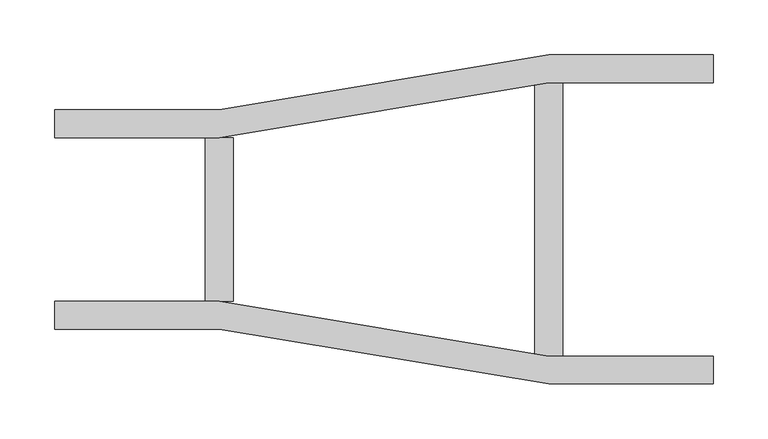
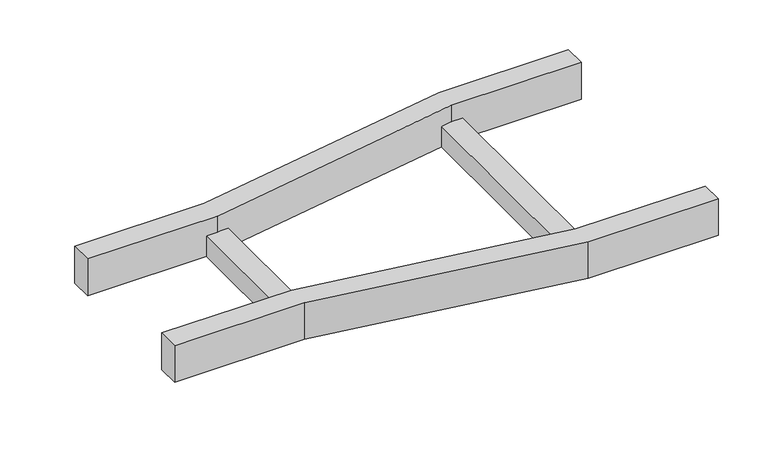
"""IFC4 building model written with IfcOpenShell, lengths in millimetres: cable carrier fitting geometry, BAKS_LD_RED_Straight reducer_RD : RD(S/L/P)C_H45."""

from ifc_helpers import new_model, si_unit, frame, origin, place, context, project, spatial, polyline, outline, extrude, source, transform, mapped, element, save


def cable_carrier_fitting_05152c93(model_context):
    return source(origin(), model_context, "Body", "SweptSolid", [
        extrude(outline(polyline([(0.0, -100.0), (0.0, -74.6), (150.0, -74.6), (450.0, -124.6), (600.0, -124.6), (600.0, -150.0), (450.0, -150.0), (150.0, -100.0), (0.0, -100.0)])), frame((0.0, 0.0, -22.5), z_axis=(0.0, 0.0, 1.0), x_axis=(1.0, 0.0, 0.0)), (0.0, 0.0, 1.0), 45.0),
        extrude(outline(polyline([(0.0, 74.6), (0.0, 100.0), (150.0, 100.0), (450.0, 150.0), (600.0, 150.0), (600.0, 124.6), (450.0, 124.6), (150.0, 74.6), (0.0, 74.6)])), frame((0.0, 0.0, -22.5), z_axis=(0.0, 0.0, 1.0), x_axis=(1.0, 0.0, 0.0)), (0.0, 0.0, 1.0), 45.0),
        extrude(outline(polyline([(437.3, 124.6), (462.7, 124.6), (462.7, -124.6), (437.3, -124.6), (437.3, 124.6)])), frame((0.0, 0.0, -22.5), z_axis=(0.0, 0.0, 1.0), x_axis=(1.0, 0.0, 0.0)), (0.0, 0.0, 1.0), 25.4),
        extrude(outline(polyline([(137.3, 74.6), (162.7, 74.6), (162.7, -74.6), (137.3, -74.6), (137.3, 74.6)])), frame((0.0, 0.0, -22.5), z_axis=(0.0, 0.0, 1.0), x_axis=(1.0, 0.0, 0.0)), (0.0, 0.0, 1.0), 25.4),
    ])


if __name__ == "__main__":
    model = new_model("IFC4")
    model_context = context("Model", 3, world=origin())
    ifc_project = project(units=[si_unit("LENGTHUNIT", "METRE", prefix="MILLI")], contexts=[model_context])
    site = spatial("IfcSite", under=ifc_project)
    building = spatial("IfcBuilding", under=site)
    placement = place(None, origin())
    cable_carrier_fitting_shape = cable_carrier_fitting_05152c93(model_context)
    element("IfcCableCarrierFitting", 1, ObjectType="BAKS_LD_RED_Straight reducer_RD : RD(S/L/P)C_H45", at=placement, inside=building, context=model_context, shape_type="MappedRepresentation", body=[
        mapped(cable_carrier_fitting_shape, transform((0.0, 0.0, 0.0), x_axis=(1.0, 0.0, 0.0), y_axis=(0.0, 1.0, 0.0), z_axis=(0.0, 0.0, 1.0))),
    ])
    save(model, "model.ifc")
